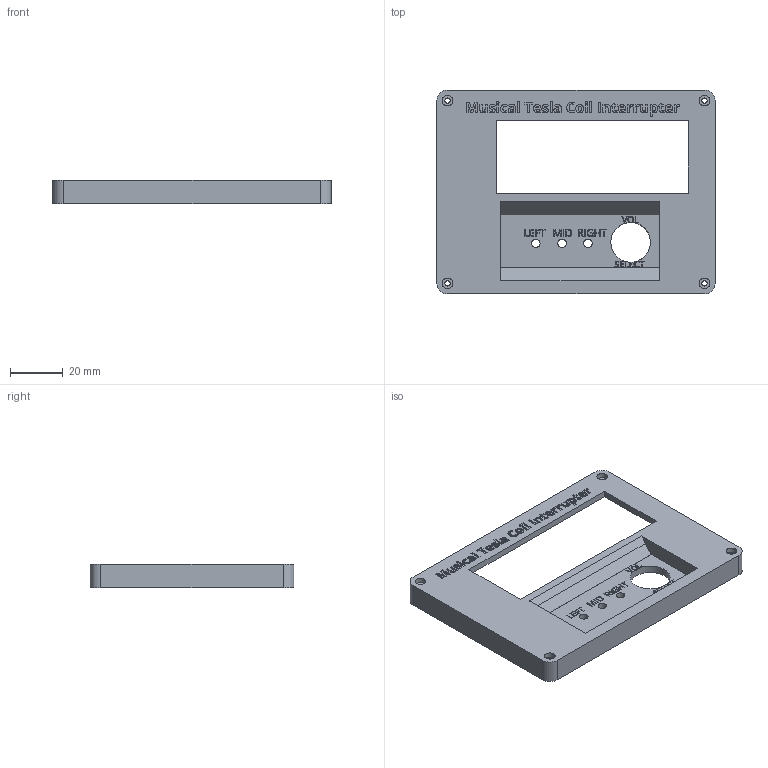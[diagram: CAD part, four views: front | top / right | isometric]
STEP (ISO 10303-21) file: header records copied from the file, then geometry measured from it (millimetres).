
FILE_DESCRIPTION(('STEP AP242 Edition 2','STEP AP242 Edition 2''CAx-IF Rec.Pracs.---Representation and Presentation of Product Manufacturing Information (PMI)---4.0---2014-10-13','STEP AP242 Edition 2''CAx-IF Rec.Pracs.---Representation and Presentation of Product Manufacturing Information (PMI)---4.0---2014-10-13''CAx-IF Rec.Pracs.---3D Tessellated Geometry---0.4---2014-09-14','STEP AP242 Edition 2''CAx-IF Rec.Pracs.---Representation and Presentation of Product Manufacturing Information (PMI)---4.0---2014-10-13''CAx-IF Rec.Pracs.---3D Tessellated Geometry---0.4---2014-09-14''2;1','STEP AP242 Edition 2''CAx-IF Rec.Pracs.---Representation and Presentation of Product Manufacturing Information (PMI)---4.0---2014-10-13''CAx-IF Rec.Pracs.---3D Tessellated Geometry---0.4---2014-09-14''2;1''CAx-IF Rec.Pracs.---User Defined Attributes---1.5---2016-08-15'),'2;1');
FILE_NAME('/vol/tmp/translate-14958899252267850940/3D_PCB_PCB_ESP32-sd-int_2026-03-29nosilk - Part 2.step','2026-03-31T16:57:27',(''),(''),'ST-DEVELOPER v20','ONSHAPE BY PTC INC, 1.212',' ');
FILE_SCHEMA(('AP242_MANAGED_MODEL_BASED_3D_ENGINEERING_MIM_LF { 1 0 10303 442 3 1 4 }'));
Length unit declared in the file: metre
Products named in the file (1): Part 2
Bounding box: 105 x 77 x 9 mm (x, y, z)
Volume: 21898.8 mm3; surface area: 19867.2 mm2
Topology: 1 solids, 1 shells, 771 faces, 2133 edges, 1422 vertices
Faces by surface type: plane 416, bspline 246, cylinder 109
Full cylindrical faces by diameter (mm): 2 x4, 3.2 x3, 4 x4, 15 x1
Entity records: 25321 total; most frequent: CARTESIAN_POINT 7026, ORIENTED_EDGE 4232, DIRECTION 2899, EDGE_CURVE 2116, VERTEX_POINT 1417, LINE 1395, VECTOR 1395, EDGE_LOOP 859
